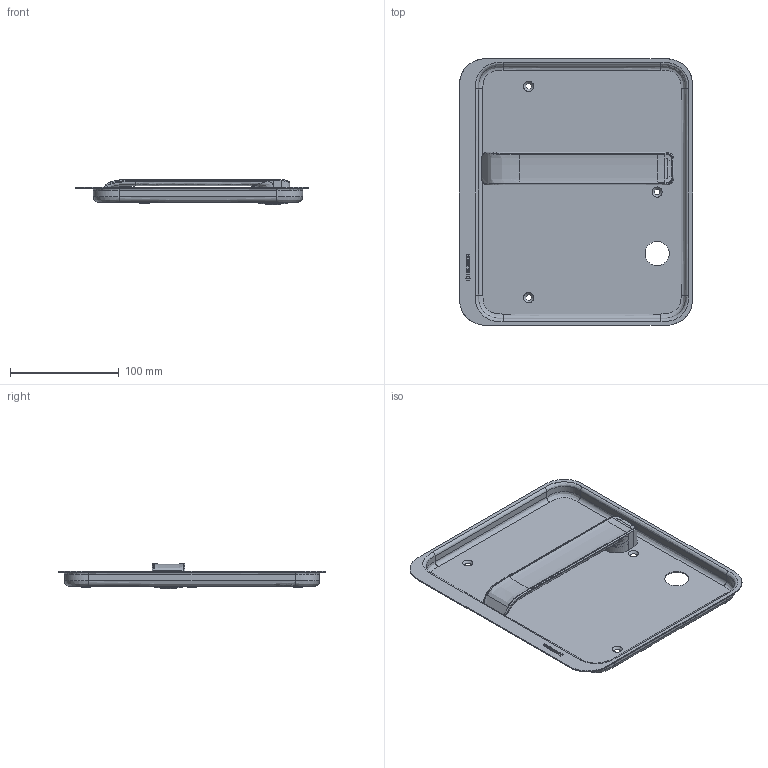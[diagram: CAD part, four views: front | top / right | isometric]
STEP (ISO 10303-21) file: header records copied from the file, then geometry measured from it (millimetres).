
FILE_DESCRIPTION(/* description */ (''),/* implementation_level */ '2;1');
FILE_NAME(/* name */ 'C:\ADSK_DMS_WS\Designs\Vorschläge\Loc Schalen\Muschel Serie 9\S9.13.D3Links\Heusser-Muschel S9.13.D3.278L.stp',/* time_stamp */ '2020-10-14T07:45:14+02:00',/* author */ ('gm'),/* organization */ (''),/* preprocessor_version */ 'ST-DEVELOPER v16.5',/* originating_system */ 'Autodesk Inventor 2017',/* authorisation */ '');
FILE_SCHEMA (('AUTOMOTIVE_DESIGN { 1 0 10303 214 3 1 1 }'));
Length unit declared in the file: millimetre
Products named in the file (1): S9.13.D3.0L
Bounding box: 214 x 245 x 23 mm (x, y, z)
Volume: 95509.4 mm3; surface area: 137051 mm2
Topology: 1 solids, 2 shells, 328 faces, 846 edges, 548 vertices
Faces by surface type: bspline 160, plane 131, cylinder 21, cone 16
Full cylindrical faces by diameter (mm): 1.7 x2, 14.2 x1, 16 x3, 18 x1, 19 x1, 19.1 x1, 22.3 x1, 23 x1, 23.2 x1, 24 x1, 25 x1, 26 x1, 28 x1
Entity records: 18347 total; most frequent: CARTESIAN_POINT 11076, ORIENTED_EDGE 1616, DIRECTION 959, EDGE_CURVE 808, VERTEX_POINT 542, LINE 411, VECTOR 411, EDGE_LOOP 406
